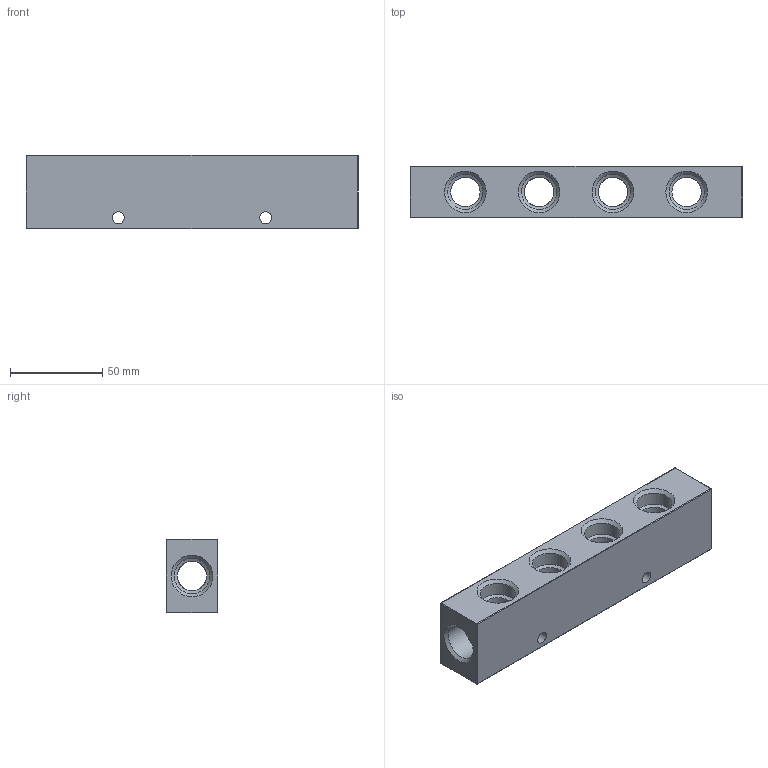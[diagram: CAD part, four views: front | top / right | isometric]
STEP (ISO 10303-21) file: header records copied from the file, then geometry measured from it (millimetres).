
FILE_DESCRIPTION(/* description */ (''),/* implementation_level */ '2;1');
FILE_NAME(/* name */ 'S:\_Tecnico\ArchivioUT\_Disegni3D ingombri\DISEGNI 3D per ingombri\RL\RL52121244.stp',/* time_stamp */ '2020-02-20T14:26:37+01:00',/* author */ ('UfficioTecnico'),/* organization */ (''),/* preprocessor_version */ 'ST-DEVELOPER v18',/* originating_system */ 'Autodesk Inventor 2020',/* authorisation */ '');
FILE_SCHEMA (('AUTOMOTIVE_DESIGN { 1 0 10303 214 3 1 1 }'));
Length unit declared in the file: millimetre
Products named in the file (1): RL51121204
Bounding box: 180 x 28 x 40 mm (x, y, z)
Volume: 132137.1 mm3; surface area: 38704.6 mm2
Topology: 1 solids, 1 shells, 71 faces, 181 edges, 104 vertices
Faces by surface type: cylinder 37, cone 20, sphere 8, plane 6
Full cylindrical faces by diameter (mm): 6.5 x2, 16 x13, 19.172 x10
Entity records: 2232 total; most frequent: DIRECTION 437, ORIENTED_EDGE 362, CARTESIAN_POINT 357, AXIS2_PLACEMENT_3D 184, EDGE_CURVE 181, VERTEX_POINT 104, CIRCLE 88, EDGE_LOOP 85
